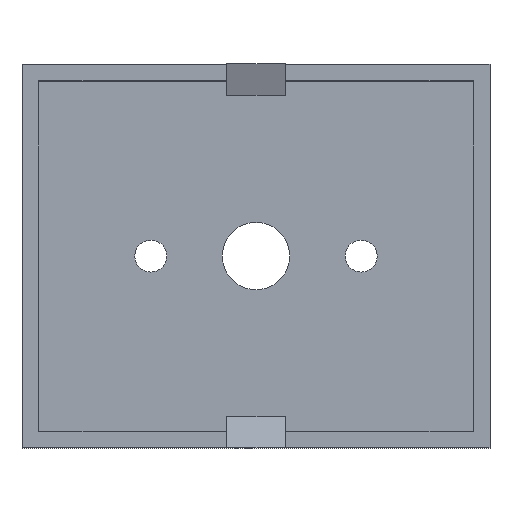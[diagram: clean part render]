
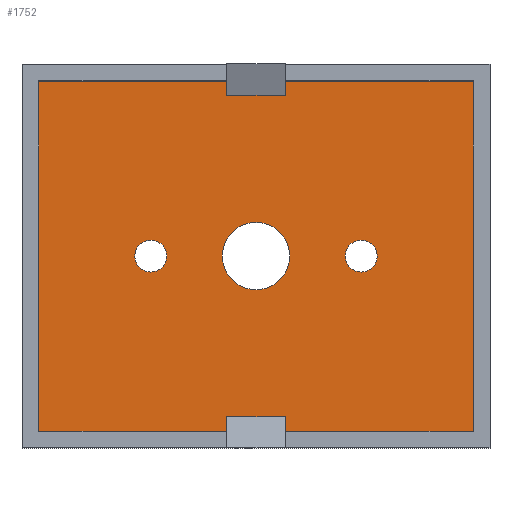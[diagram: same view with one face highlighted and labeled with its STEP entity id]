
A CAD part, top view. The second image highlights one B-rep face of the part: STEP entity #1752.
In plain terms, the highlighted planar face has unit normal (0, 0, 1).
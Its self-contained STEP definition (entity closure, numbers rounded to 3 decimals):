
#390 = PLANE('',#391);
#391 = AXIS2_PLACEMENT_3D('',#392,#393,#394);
#392 = CARTESIAN_POINT('',(39.1,9.6,2.25));
#393 = DIRECTION('',(-0.,1.,0.));
#394 = DIRECTION('',(0.,0.,1.));
#417 = PLANE('',#418);
#418 = AXIS2_PLACEMENT_3D('',#419,#420,#421);
#419 = CARTESIAN_POINT('',(39.1,9.6,2.25));
#420 = DIRECTION('',(1.,0.,-0.));
#421 = DIRECTION('',(0.,0.,1.));
#443 = PLANE('',#444);
#444 = AXIS2_PLACEMENT_3D('',#445,#446,#447);
#445 = CARTESIAN_POINT('',(39.1,30.4,2.25));
#446 = DIRECTION('',(-0.,1.,0.));
#447 = DIRECTION('',(0.,0.,1.));
#676 = CYLINDRICAL_SURFACE('',#677,0.95);
#677 = AXIS2_PLACEMENT_3D('',#678,#679,#680);
#678 = CARTESIAN_POINT('',(45.75,20.,0.6));
#679 = DIRECTION('',(0.,0.,1.));
#680 = DIRECTION('',(1.,0.,-0.));
#707 = CYLINDRICAL_SURFACE('',#708,2.);
#708 = AXIS2_PLACEMENT_3D('',#709,#710,#711);
#709 = CARTESIAN_POINT('',(52.,20.,0.6));
#710 = DIRECTION('',(0.,0.,1.));
#711 = DIRECTION('',(1.,0.,-0.));
#738 = CYLINDRICAL_SURFACE('',#739,0.95);
#739 = AXIS2_PLACEMENT_3D('',#740,#741,#742);
#740 = CARTESIAN_POINT('',(58.25,20.,0.6));
#741 = DIRECTION('',(0.,0.,1.));
#742 = DIRECTION('',(1.,0.,-0.));
#839 = PLANE('',#840);
#840 = AXIS2_PLACEMENT_3D('',#841,#842,#843);
#841 = CARTESIAN_POINT('',(64.9,9.6,2.25));
#842 = DIRECTION('',(1.,0.,-0.));
#843 = DIRECTION('',(0.,0.,1.));
#1002 = VERTEX_POINT('',#1003);
#1003 = CARTESIAN_POINT('',(64.9,30.4,2.25));
#1024 = EDGE_CURVE('',#1025,#1002,#1027,.T.);
#1025 = VERTEX_POINT('',#1026);
#1026 = CARTESIAN_POINT('',(39.1,30.4,2.25));
#1027 = SURFACE_CURVE('',#1028,(#1032,#1039),.PCURVE_S1.);
#1028 = LINE('',#1029,#1030);
#1029 = CARTESIAN_POINT('',(39.1,30.4,2.25));
#1030 = VECTOR('',#1031,1.);
#1031 = DIRECTION('',(1.,0.,-0.));
#1032 = PCURVE('',#443,#1033);
#1033 = DEFINITIONAL_REPRESENTATION('',(#1034),#1038);
#1034 = LINE('',#1035,#1036);
#1035 = CARTESIAN_POINT('',(0.,0.));
#1036 = VECTOR('',#1037,1.);
#1037 = DIRECTION('',(0.,1.));
#1038 = ( GEOMETRIC_REPRESENTATION_CONTEXT(2) 
PARAMETRIC_REPRESENTATION_CONTEXT() REPRESENTATION_CONTEXT('2D SPACE',''
  ) );
#1039 = PCURVE('',#1040,#1045);
#1040 = PLANE('',#1041);
#1041 = AXIS2_PLACEMENT_3D('',#1042,#1043,#1044);
#1042 = CARTESIAN_POINT('',(39.1,9.6,2.25));
#1043 = DIRECTION('',(0.,0.,1.));
#1044 = DIRECTION('',(1.,0.,-0.));
#1045 = DEFINITIONAL_REPRESENTATION('',(#1046),#1050);
#1046 = LINE('',#1047,#1048);
#1047 = CARTESIAN_POINT('',(0.,20.8));
#1048 = VECTOR('',#1049,1.);
#1049 = DIRECTION('',(1.,0.));
#1050 = ( GEOMETRIC_REPRESENTATION_CONTEXT(2) 
PARAMETRIC_REPRESENTATION_CONTEXT() REPRESENTATION_CONTEXT('2D SPACE',''
  ) );
#1124 = VERTEX_POINT('',#1125);
#1125 = CARTESIAN_POINT('',(39.1,9.6,2.25));
#1146 = EDGE_CURVE('',#1124,#1025,#1147,.T.);
#1147 = SURFACE_CURVE('',#1148,(#1152,#1159),.PCURVE_S1.);
#1148 = LINE('',#1149,#1150);
#1149 = CARTESIAN_POINT('',(39.1,9.6,2.25));
#1150 = VECTOR('',#1151,1.);
#1151 = DIRECTION('',(-0.,1.,0.));
#1152 = PCURVE('',#417,#1153);
#1153 = DEFINITIONAL_REPRESENTATION('',(#1154),#1158);
#1154 = LINE('',#1155,#1156);
#1155 = CARTESIAN_POINT('',(0.,0.));
#1156 = VECTOR('',#1157,1.);
#1157 = DIRECTION('',(0.,-1.));
#1158 = ( GEOMETRIC_REPRESENTATION_CONTEXT(2) 
PARAMETRIC_REPRESENTATION_CONTEXT() REPRESENTATION_CONTEXT('2D SPACE',''
  ) );
#1159 = PCURVE('',#1040,#1160);
#1160 = DEFINITIONAL_REPRESENTATION('',(#1161),#1165);
#1161 = LINE('',#1162,#1163);
#1162 = CARTESIAN_POINT('',(0.,0.));
#1163 = VECTOR('',#1164,1.);
#1164 = DIRECTION('',(0.,1.));
#1165 = ( GEOMETRIC_REPRESENTATION_CONTEXT(2) 
PARAMETRIC_REPRESENTATION_CONTEXT() REPRESENTATION_CONTEXT('2D SPACE',''
  ) );
#1173 = VERTEX_POINT('',#1174);
#1174 = CARTESIAN_POINT('',(64.9,9.6,2.25));
#1195 = EDGE_CURVE('',#1124,#1173,#1196,.T.);
#1196 = SURFACE_CURVE('',#1197,(#1201,#1208),.PCURVE_S1.);
#1197 = LINE('',#1198,#1199);
#1198 = CARTESIAN_POINT('',(39.1,9.6,2.25));
#1199 = VECTOR('',#1200,1.);
#1200 = DIRECTION('',(1.,0.,-0.));
#1201 = PCURVE('',#390,#1202);
#1202 = DEFINITIONAL_REPRESENTATION('',(#1203),#1207);
#1203 = LINE('',#1204,#1205);
#1204 = CARTESIAN_POINT('',(0.,0.));
#1205 = VECTOR('',#1206,1.);
#1206 = DIRECTION('',(0.,1.));
#1207 = ( GEOMETRIC_REPRESENTATION_CONTEXT(2) 
PARAMETRIC_REPRESENTATION_CONTEXT() REPRESENTATION_CONTEXT('2D SPACE',''
  ) );
#1208 = PCURVE('',#1040,#1209);
#1209 = DEFINITIONAL_REPRESENTATION('',(#1210),#1214);
#1210 = LINE('',#1211,#1212);
#1211 = CARTESIAN_POINT('',(0.,0.));
#1212 = VECTOR('',#1213,1.);
#1213 = DIRECTION('',(1.,0.));
#1214 = ( GEOMETRIC_REPRESENTATION_CONTEXT(2) 
PARAMETRIC_REPRESENTATION_CONTEXT() REPRESENTATION_CONTEXT('2D SPACE',''
  ) );
#1372 = EDGE_CURVE('',#1373,#1373,#1375,.T.);
#1373 = VERTEX_POINT('',#1374);
#1374 = CARTESIAN_POINT('',(46.7,20.,2.25));
#1375 = SURFACE_CURVE('',#1376,(#1381,#1388),.PCURVE_S1.);
#1376 = CIRCLE('',#1377,0.95);
#1377 = AXIS2_PLACEMENT_3D('',#1378,#1379,#1380);
#1378 = CARTESIAN_POINT('',(45.75,20.,2.25));
#1379 = DIRECTION('',(0.,0.,1.));
#1380 = DIRECTION('',(1.,0.,-0.));
#1381 = PCURVE('',#676,#1382);
#1382 = DEFINITIONAL_REPRESENTATION('',(#1383),#1387);
#1383 = LINE('',#1384,#1385);
#1384 = CARTESIAN_POINT('',(0.,1.65));
#1385 = VECTOR('',#1386,1.);
#1386 = DIRECTION('',(1.,0.));
#1387 = ( GEOMETRIC_REPRESENTATION_CONTEXT(2) 
PARAMETRIC_REPRESENTATION_CONTEXT() REPRESENTATION_CONTEXT('2D SPACE',''
  ) );
#1388 = PCURVE('',#1040,#1389);
#1389 = DEFINITIONAL_REPRESENTATION('',(#1390),#1394);
#1390 = CIRCLE('',#1391,0.95);
#1391 = AXIS2_PLACEMENT_2D('',#1392,#1393);
#1392 = CARTESIAN_POINT('',(6.65,10.4));
#1393 = DIRECTION('',(1.,0.));
#1394 = ( GEOMETRIC_REPRESENTATION_CONTEXT(2) 
PARAMETRIC_REPRESENTATION_CONTEXT() REPRESENTATION_CONTEXT('2D SPACE',''
  ) );
#1422 = EDGE_CURVE('',#1423,#1423,#1425,.T.);
#1423 = VERTEX_POINT('',#1424);
#1424 = CARTESIAN_POINT('',(54.,20.,2.25));
#1425 = SURFACE_CURVE('',#1426,(#1431,#1438),.PCURVE_S1.);
#1426 = CIRCLE('',#1427,2.);
#1427 = AXIS2_PLACEMENT_3D('',#1428,#1429,#1430);
#1428 = CARTESIAN_POINT('',(52.,20.,2.25));
#1429 = DIRECTION('',(0.,0.,1.));
#1430 = DIRECTION('',(1.,0.,-0.));
#1431 = PCURVE('',#707,#1432);
#1432 = DEFINITIONAL_REPRESENTATION('',(#1433),#1437);
#1433 = LINE('',#1434,#1435);
#1434 = CARTESIAN_POINT('',(0.,1.65));
#1435 = VECTOR('',#1436,1.);
#1436 = DIRECTION('',(1.,0.));
#1437 = ( GEOMETRIC_REPRESENTATION_CONTEXT(2) 
PARAMETRIC_REPRESENTATION_CONTEXT() REPRESENTATION_CONTEXT('2D SPACE',''
  ) );
#1438 = PCURVE('',#1040,#1439);
#1439 = DEFINITIONAL_REPRESENTATION('',(#1440),#1444);
#1440 = CIRCLE('',#1441,2.);
#1441 = AXIS2_PLACEMENT_2D('',#1442,#1443);
#1442 = CARTESIAN_POINT('',(12.9,10.4));
#1443 = DIRECTION('',(1.,0.));
#1444 = ( GEOMETRIC_REPRESENTATION_CONTEXT(2) 
PARAMETRIC_REPRESENTATION_CONTEXT() REPRESENTATION_CONTEXT('2D SPACE',''
  ) );
#1472 = EDGE_CURVE('',#1473,#1473,#1475,.T.);
#1473 = VERTEX_POINT('',#1474);
#1474 = CARTESIAN_POINT('',(59.2,20.,2.25));
#1475 = SURFACE_CURVE('',#1476,(#1481,#1488),.PCURVE_S1.);
#1476 = CIRCLE('',#1477,0.95);
#1477 = AXIS2_PLACEMENT_3D('',#1478,#1479,#1480);
#1478 = CARTESIAN_POINT('',(58.25,20.,2.25));
#1479 = DIRECTION('',(0.,0.,1.));
#1480 = DIRECTION('',(1.,0.,-0.));
#1481 = PCURVE('',#738,#1482);
#1482 = DEFINITIONAL_REPRESENTATION('',(#1483),#1487);
#1483 = LINE('',#1484,#1485);
#1484 = CARTESIAN_POINT('',(0.,1.65));
#1485 = VECTOR('',#1486,1.);
#1486 = DIRECTION('',(1.,0.));
#1487 = ( GEOMETRIC_REPRESENTATION_CONTEXT(2) 
PARAMETRIC_REPRESENTATION_CONTEXT() REPRESENTATION_CONTEXT('2D SPACE',''
  ) );
#1488 = PCURVE('',#1040,#1489);
#1489 = DEFINITIONAL_REPRESENTATION('',(#1490),#1494);
#1490 = CIRCLE('',#1491,0.95);
#1491 = AXIS2_PLACEMENT_2D('',#1492,#1493);
#1492 = CARTESIAN_POINT('',(19.15,10.4));
#1493 = DIRECTION('',(1.,0.));
#1494 = ( GEOMETRIC_REPRESENTATION_CONTEXT(2) 
PARAMETRIC_REPRESENTATION_CONTEXT() REPRESENTATION_CONTEXT('2D SPACE',''
  ) );
#1596 = EDGE_CURVE('',#1173,#1002,#1597,.T.);
#1597 = SURFACE_CURVE('',#1598,(#1602,#1609),.PCURVE_S1.);
#1598 = LINE('',#1599,#1600);
#1599 = CARTESIAN_POINT('',(64.9,9.6,2.25));
#1600 = VECTOR('',#1601,1.);
#1601 = DIRECTION('',(-0.,1.,0.));
#1602 = PCURVE('',#839,#1603);
#1603 = DEFINITIONAL_REPRESENTATION('',(#1604),#1608);
#1604 = LINE('',#1605,#1606);
#1605 = CARTESIAN_POINT('',(0.,0.));
#1606 = VECTOR('',#1607,1.);
#1607 = DIRECTION('',(0.,-1.));
#1608 = ( GEOMETRIC_REPRESENTATION_CONTEXT(2) 
PARAMETRIC_REPRESENTATION_CONTEXT() REPRESENTATION_CONTEXT('2D SPACE',''
  ) );
#1609 = PCURVE('',#1040,#1610);
#1610 = DEFINITIONAL_REPRESENTATION('',(#1611),#1615);
#1611 = LINE('',#1612,#1613);
#1612 = CARTESIAN_POINT('',(25.8,0.));
#1613 = VECTOR('',#1614,1.);
#1614 = DIRECTION('',(0.,1.));
#1615 = ( GEOMETRIC_REPRESENTATION_CONTEXT(2) 
PARAMETRIC_REPRESENTATION_CONTEXT() REPRESENTATION_CONTEXT('2D SPACE',''
  ) );
#1752 = ADVANCED_FACE('',(#1753,#1759,#1762,#1765),#1040,.T.);
#1753 = FACE_BOUND('',#1754,.T.);
#1754 = EDGE_LOOP('',(#1755,#1756,#1757,#1758));
#1755 = ORIENTED_EDGE('',*,*,#1146,.F.);
#1756 = ORIENTED_EDGE('',*,*,#1195,.T.);
#1757 = ORIENTED_EDGE('',*,*,#1596,.T.);
#1758 = ORIENTED_EDGE('',*,*,#1024,.F.);
#1759 = FACE_BOUND('',#1760,.T.);
#1760 = EDGE_LOOP('',(#1761));
#1761 = ORIENTED_EDGE('',*,*,#1372,.F.);
#1762 = FACE_BOUND('',#1763,.T.);
#1763 = EDGE_LOOP('',(#1764));
#1764 = ORIENTED_EDGE('',*,*,#1422,.F.);
#1765 = FACE_BOUND('',#1766,.T.);
#1766 = EDGE_LOOP('',(#1767));
#1767 = ORIENTED_EDGE('',*,*,#1472,.F.);
